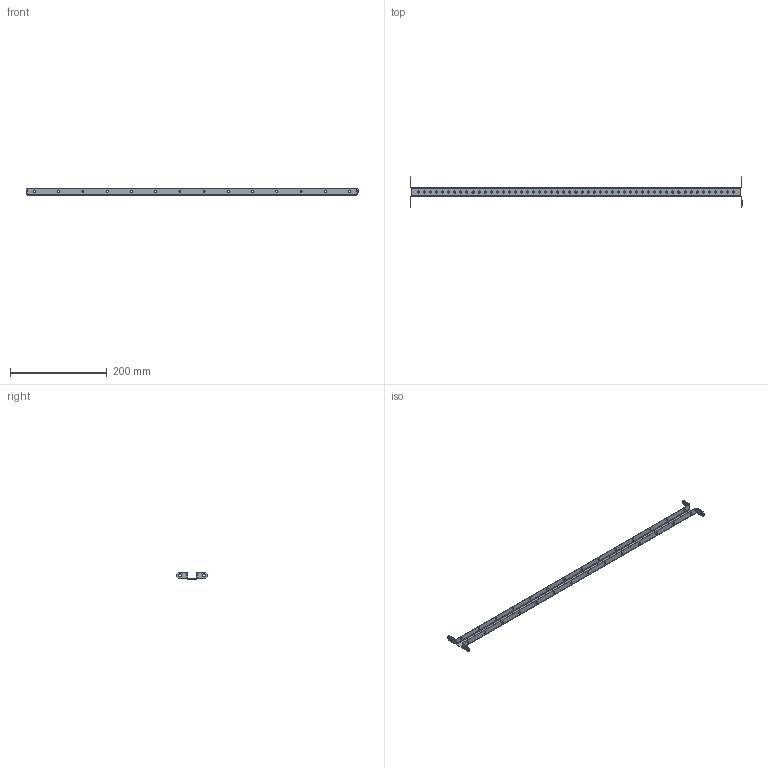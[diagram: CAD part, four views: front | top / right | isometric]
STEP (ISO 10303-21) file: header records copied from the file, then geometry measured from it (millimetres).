
FILE_DESCRIPTION (( 'STEP AP203' ), '1' );
FILE_NAME ('MG 80.02 Ìîíòàæíàÿ ðåéêà.STEP', '2020-04-21T04:28:01', ( '' ), ( '' ), 'SwSTEP 2.0', 'SolidWorks 2018', '' );
FILE_SCHEMA (( 'CONFIG_CONTROL_DESIGN' ));
Length unit declared in the file: millimetre
Products named in the file (1): MG 80.02 Ìîíòàæíàÿ ðåéêà
Bounding box: 685 x 63.6 x 13.5 mm (x, y, z)
Volume: 34842.2 mm3; surface area: 61394.7 mm2
Topology: 1 solids, 1 shells, 226 faces, 636 edges, 412 vertices
Faces by surface type: cylinder 182, plane 44
Entity records: 7873 total; most frequent: DIRECTION 1454, CARTESIAN_POINT 1275, ORIENTED_EDGE 1272, EDGE_CURVE 636, AXIS2_PLACEMENT_3D 591, VERTEX_POINT 412, EDGE_LOOP 396, CIRCLE 364
